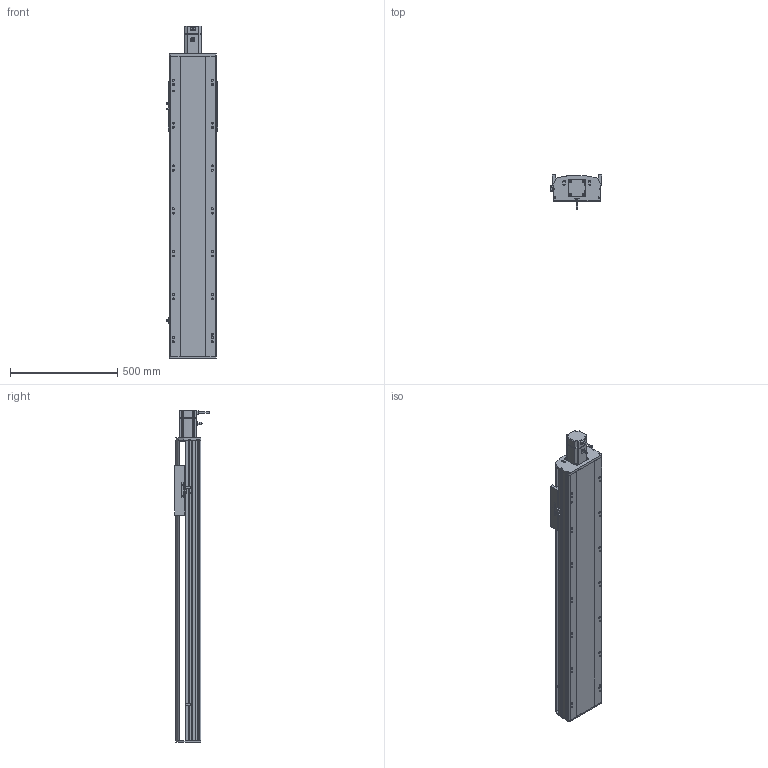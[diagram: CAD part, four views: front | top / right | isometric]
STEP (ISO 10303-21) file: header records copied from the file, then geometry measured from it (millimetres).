
FILE_DESCRIPTION (( 'STEP AP214' ), '1' );
FILE_NAME ('RTH22-XX-1000-E-M75-C4.STEP', '2025-10-24T10:47:06', ( 'Microsoft' ), ( 'Microsoft' ), 'SwSTEP 2.0', 'SolidWorks 2018', '' );
FILE_SCHEMA (( 'AUTOMOTIVE_DESIGN' ));
Length unit declared in the file: millimetre
Products named in the file (9): N_750W萇儂^RTH22-XX-XX-E-M75-C4; N_RTH22-GY-001耜裔^RTH22-XX-XX-E-M75-C4; N_RTH22-E-008萇儂啣^RTH22-XX-XX-E-M75-C4; N_RTH22-GY-013外置感应片^RTH22-XX-XX-E-M75-C4; N_RTH22-E-007奻裔^RTH22-XX-XX-E-M75-C4; N_RTH22-E-004-SFS25賑釱^RTH22-XX-XX-E-M75-C4; RTH22-XX-1000-E-M75-C4; N_RTH22-E-011菁釱^RTH22-XX-XX-E-M75-C4; N_OMRON EE-SX672 传感器^RTH22-XX-XX-E-M75-C4
Assembly tree (10 placements, depth 2):
  RTH22-XX-1000-E-M75-C4
    N_RTH22-E-011菁釱^RTH22-XX-XX-E-M75-C4
    N_RTH22-GY-001耜裔^RTH22-XX-XX-E-M75-C4
    N_RTH22-E-008萇儂啣^RTH22-XX-XX-E-M75-C4
    N_RTH22-E-007奻裔^RTH22-XX-XX-E-M75-C4
    N_RTH22-GY-013外置感应片^RTH22-XX-XX-E-M75-C4
    N_RTH22-E-004-SFS25賑釱^RTH22-XX-XX-E-M75-C4
    N_750W萇儂^RTH22-XX-XX-E-M75-C4
    N_OMRON EE-SX672 传感器^RTH22-XX-XX-E-M75-C4  x3
Bounding box: 238.5 x 160.7 x 1549 mm (x, y, z)
Volume: 19431328 mm3; surface area: 2008238 mm2
Topology: 10 solids, 10 shells, 1541 faces, 4224 edges, 2729 vertices
Faces by surface type: plane 756, cylinder 448, bspline 279, cone 58
Entity records: 38575 total; most frequent: CARTESIAN_POINT 12089, ORIENTED_EDGE 5424, DIRECTION 5098, EDGE_CURVE 2712, VERTEX_POINT 1765, AXIS2_PLACEMENT_3D 1718, LINE 1662, VECTOR 1662
